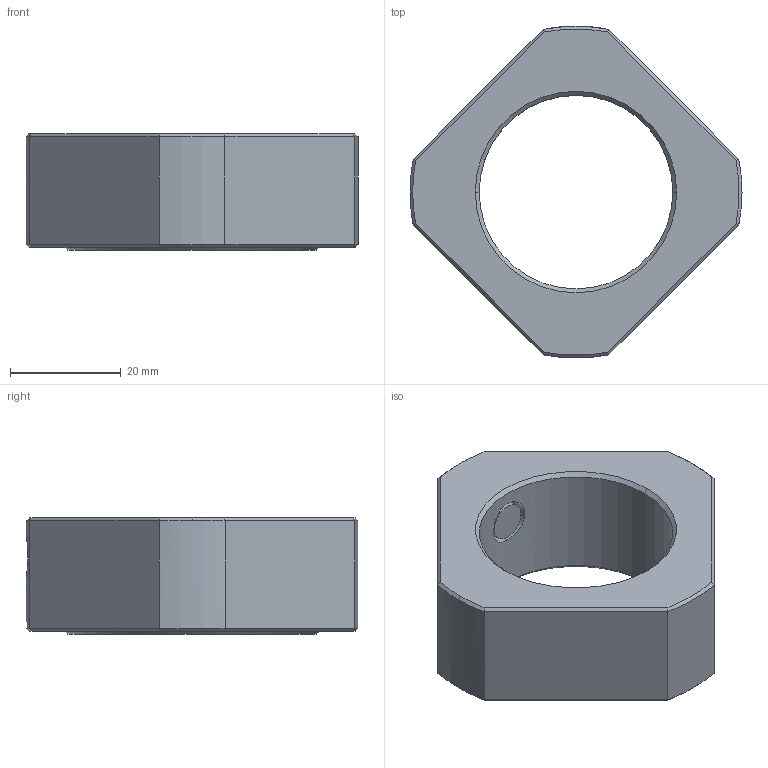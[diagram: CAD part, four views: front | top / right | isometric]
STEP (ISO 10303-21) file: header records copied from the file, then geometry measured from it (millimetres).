
FILE_DESCRIPTION (( 'STEP AP203' ), '1' );
FILE_NAME ('RN35.STEP', '2009-05-27T01:51:19', ( '冠犁泅' ), ( '俺惯何' ), 'SwSTEP 2.0', 'SolidWorks 2007', '' );
FILE_SCHEMA (( 'CONFIG_CONTROL_DESIGN' ));
Length unit declared in the file: millimetre
Products named in the file (4): RN35; SET PIECE D6.8x3.9L_ル遽; RN35_NUT_晦獄 撲薑; Socket Set Screw Flat Point_AM_B18.3.6M - M8 x 1.25 x 8 Hex Socket Flat Pt. SS --N_B18.3.6M - M8 x 1.25 x 8 Hex Socket Flat Pt. SS --N
Assembly tree (3 placements, depth 2):
  RN35
    SET PIECE D6.8x3.9L_ル遽
    RN35_NUT_晦獄 撲薑
    Socket Set Screw Flat Point_AM_B18.3.6M - M8 x 1.25 x 8 Hex Socket Flat Pt. SS --N_B18.3.6M - M8 x 1.25 x 8 Hex Socket Flat Pt. SS --N
Bounding box: 60 x 59.93 x 21 mm (x, y, z)
Volume: 29080.1 mm3; surface area: 9376.4 mm2
Topology: 3 solids, 3 shells, 59 faces, 128 edges, 77 vertices
Faces by surface type: plane 26, cone 20, cylinder 13
Entity records: 2149 total; most frequent: CARTESIAN_POINT 450, DIRECTION 283, ORIENTED_EDGE 256, EDGE_CURVE 128, AXIS2_PLACEMENT_3D 110, VERTEX_POINT 77, EDGE_LOOP 65, LINE 63
